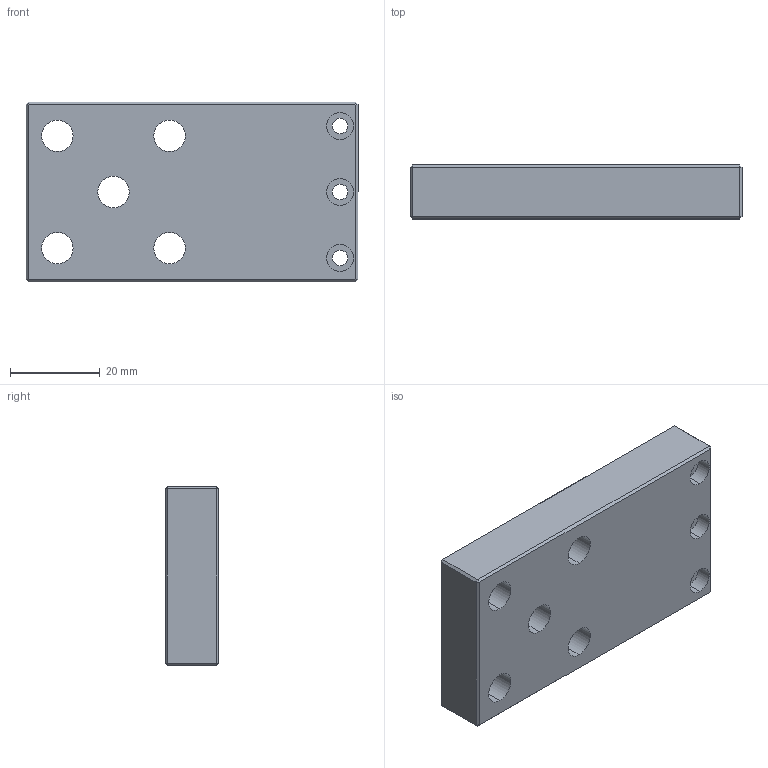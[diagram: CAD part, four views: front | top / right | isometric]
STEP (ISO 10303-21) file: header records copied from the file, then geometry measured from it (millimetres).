
FILE_DESCRIPTION (( 'STEP AP203' ), '1' );
FILE_NAME ('BP-13.STEP', '2022-07-20T08:37:13', ( '' ), ( '' ), 'SwSTEP 2.0', 'SolidWorks 2021', '' );
FILE_SCHEMA (( 'CONFIG_CONTROL_DESIGN' ));
Length unit declared in the file: millimetre
Products named in the file (1): BP-13
Bounding box: 74 x 12 x 40 mm (x, y, z)
Volume: 30000.4 mm3; surface area: 10410 mm2
Topology: 1 solids, 1 shells, 66 faces, 152 edges, 96 vertices
Faces by surface type: plane 34, cylinder 32
Entity records: 1981 total; most frequent: DIRECTION 350, CARTESIAN_POINT 315, ORIENTED_EDGE 304, EDGE_CURVE 152, AXIS2_PLACEMENT_3D 131, VERTEX_POINT 96, EDGE_LOOP 90, VECTOR 88
